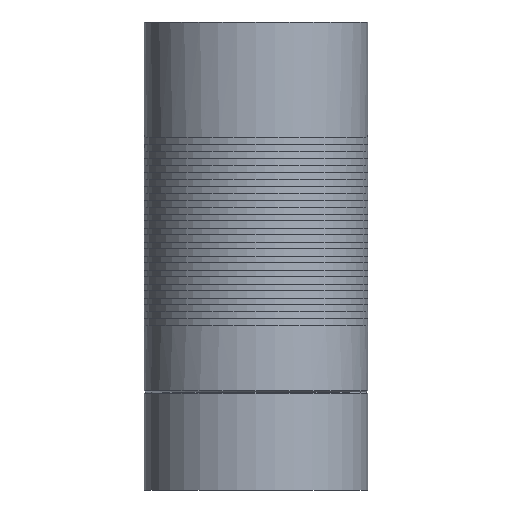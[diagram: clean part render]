
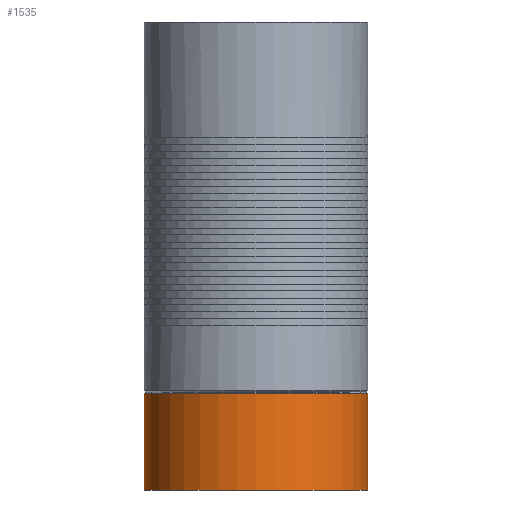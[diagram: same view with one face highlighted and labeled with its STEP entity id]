
A CAD part, left-side view. The second image highlights one B-rep face of the part: STEP entity #1535.
In plain terms, the highlighted cylindrical face has radius 80 mm (diameter 160 mm), a full revolution.
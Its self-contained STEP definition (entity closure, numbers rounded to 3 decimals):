
#222=CYLINDRICAL_SURFACE($,#1650,80.);
#270=FACE_BOUND($,#431,.T.);
#329=FACE_OUTER_BOUND($,#430,.T.);
#430=EDGE_LOOP($,(#1040));
#431=EDGE_LOOP($,(#1041));
#586=CIRCLE($,#1649,80.);
#587=CIRCLE($,#1651,80.);
#706=VERTEX_POINT($,#2427);
#707=VERTEX_POINT($,#2430);
#846=EDGE_CURVE($,#706,#706,#586,.T.);
#847=EDGE_CURVE($,#707,#707,#587,.T.);
#1040=ORIENTED_EDGE($,*,*,#847,.F.);
#1041=ORIENTED_EDGE($,*,*,#846,.T.);
#1535=ADVANCED_FACE($,(#329,#270),#222,.T.);
#1649=AXIS2_PLACEMENT_3D($,#2428,#1890,#1891);
#1650=AXIS2_PLACEMENT_3D($,#2429,#1892,#1893);
#1651=AXIS2_PLACEMENT_3D($,#2431,#1894,#1895);
#1890=DIRECTION('center_axis',(0.,0.,-1.));
#1891=DIRECTION('ref_axis',(-1.,0.,0.));
#1892=DIRECTION('center_axis',(0.,0.,1.));
#1893=DIRECTION('ref_axis',(-1.,0.,0.));
#1894=DIRECTION('center_axis',(0.,0.,-1.));
#1895=DIRECTION('ref_axis',(-1.,0.,0.));
#2427=CARTESIAN_POINT('',(-80.,0.,69.076));
#2428=CARTESIAN_POINT('Origin',(0.,0.,69.076));
#2429=CARTESIAN_POINT('Origin',(0.,0.,0.));
#2430=CARTESIAN_POINT('',(80.,0.,0.));
#2431=CARTESIAN_POINT('Origin',(0.,0.,0.));
